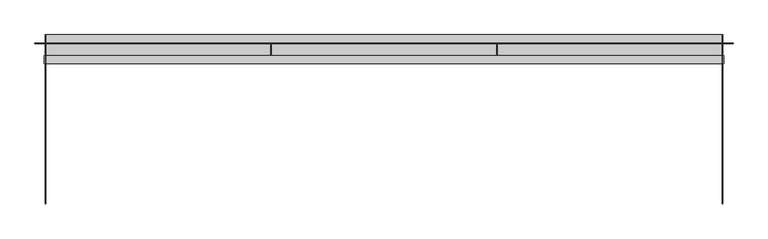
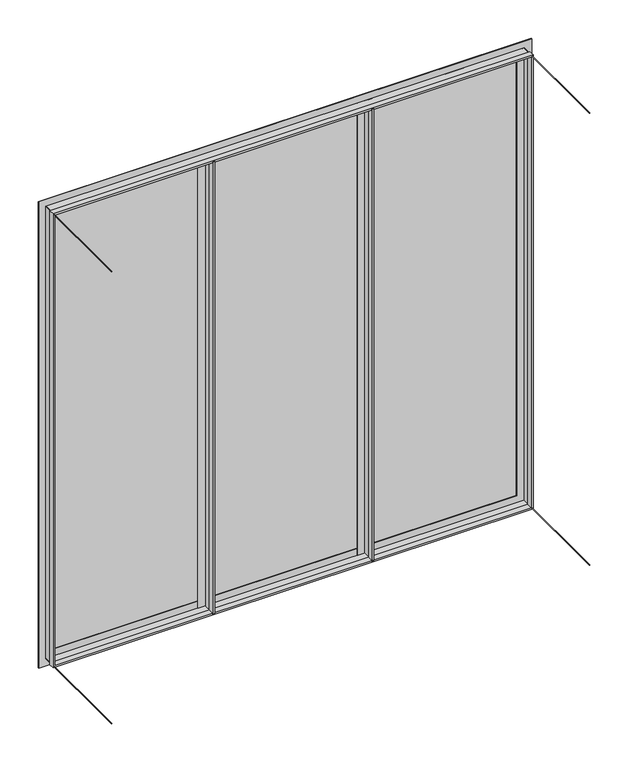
"""IFC4 building model written with IfcOpenShell, lengths in millimetres: plate geometry, Flush Ceiling Panel with Tee and Cable Ties (3 Segments) : Ceiling Panel (Vinyl) with Tee and Cable Ties Edge."""

from ifc_helpers import new_model, si_unit, point, frame, frame_2d, origin, origin_with_axes, place, context, project, spatial, polyline, circle_curve, trimmed, segment, composite_curve, outline, extrude, faceted_brep, source, transform, mapped, element, save


def plate_5478498b(model_context):
    return source(origin(), model_context, "Body", "SolidModel", [
        extrude(outline(composite_curve([segment(trimmed(circle_curve(frame_2d((1200.0, 600.0000002)), 0.5), [point((1200.0, 600.5000002))], [point((1200.0, 599.5000002))], False, "CARTESIAN"), True, "CONTINUOUS"), segment(trimmed(circle_curve(frame_2d((1200.0, 600.0000002)), 0.5), [point((1200.0, 599.5000002))], [point((1200.0, 600.5000002))], False, "CARTESIAN"), True, "CONTINUOUS")], self_intersect=False)), frame((0.0, -300.0, 0.0), z_axis=(0.0, 1.0, 0.0), x_axis=(0.0, 0.0, 1.0)), (0.0, 0.0, 1.0), 300.0),
        extrude(outline(composite_curve([segment(trimmed(circle_curve(frame_2d((1200.0, -600.0000002)), 0.5), [point((1200.0, -599.5000002))], [point((1200.0, -600.5000002))], False, "CARTESIAN"), True, "CONTINUOUS"), segment(trimmed(circle_curve(frame_2d((1200.0, -600.0000002)), 0.5), [point((1200.0, -600.5000002))], [point((1200.0, -599.5000002))], False, "CARTESIAN"), True, "CONTINUOUS")], self_intersect=False)), frame((0.0, -300.0, 0.0), z_axis=(0.0, 1.0, 0.0), x_axis=(0.0, 0.0, 1.0)), (0.0, 0.0, 1.0), 300.0),
        extrude(outline(composite_curve([segment(trimmed(circle_curve(frame_2d((0.0, 600.0000002)), 0.5), [point((0.0, 600.5000002))], [point((0.0, 599.5000002))], False, "CARTESIAN"), True, "CONTINUOUS"), segment(trimmed(circle_curve(frame_2d((0.0, 600.0000002)), 0.5), [point((0.0, 599.5000002))], [point((0.0, 600.5000002))], False, "CARTESIAN"), True, "CONTINUOUS")], self_intersect=False)), frame((0.0, -300.0, 0.0), z_axis=(0.0, 1.0, 0.0), x_axis=(0.0, 0.0, 1.0)), (0.0, 0.0, 1.0), 300.0),
        extrude(outline(composite_curve([segment(trimmed(circle_curve(frame_2d((0.0, -600.0000002)), 0.5), [point((0.0, -599.5000002))], [point((0.0, -600.5000002))], False, "CARTESIAN"), True, "CONTINUOUS"), segment(trimmed(circle_curve(frame_2d((0.0, -600.0000002)), 0.5), [point((0.0, -600.5000002))], [point((0.0, -599.5000002))], False, "CARTESIAN"), True, "CONTINUOUS")], self_intersect=False)), frame((0.0, -300.0, 0.0), z_axis=(0.0, 1.0, 0.0), x_axis=(0.0, 0.0, 1.0)), (0.0, 0.0, 1.0), 300.0),
        extrude(outline(polyline([(219.0000001, -15.0), (219.0000001, -16.0), (200.5000001, -16.0), (200.5000001, -37.0), (202.5000001, -37.0), (202.5000001, -51.0), (197.5000001, -51.0), (197.5000001, -37.0), (199.5000001, -37.0), (199.5000001, -16.0), (181.0000001, -16.0), (181.0000001, -15.0), (219.0000001, -15.0)])), origin_with_axes(), (0.0, 0.0, 1.0), 1200.0),
        extrude(outline(polyline([(-181.0000001, -15.0), (-181.0000001, -16.0), (-199.5000001, -16.0), (-199.5000001, -37.0), (-197.5000001, -37.0), (-197.5000001, -51.0), (-202.5000001, -51.0), (-202.5000001, -37.0), (-200.5000001, -37.0), (-200.5000001, -16.0), (-219.0000001, -16.0), (-219.0000001, -15.0), (-181.0000001, -15.0)])), origin_with_axes(), (0.0, 0.0, 1.0), 1200.0),
        faceted_brep([(581.0000002, -16.0, 1181.0), (581.0000002, -15.0, 1181.0), (581.0000002, -15.0, 19.0), (581.0000002, -16.0, 19.0), (599.5000002, -37.0, 1199.5), (599.5000002, -16.0, 1199.5), (599.5000002, -16.0, 0.5), (599.5000002, -37.0, 0.5), (597.5000002, -51.0, 1197.5), (597.5000002, -37.0, 1197.5), (597.5000002, -37.0, 2.5), (597.5000002, -51.0, 2.5), (602.5000002, -37.0, 1202.5), (602.5000002, -51.0, 1202.5), (602.5000002, -51.0, -2.5), (602.5000002, -37.0, -2.5), (600.5000002, -16.0, 1200.5), (600.5000002, -37.0, 1200.5), (600.5000002, -37.0, -0.5), (600.5000002, -16.0, -0.5), (619.0000002, -15.0, 1219.0), (619.0000002, -16.0, 1219.0), (619.0000002, -16.0, -19.0), (619.0000002, -15.0, -19.0), (-581.0000002, -15.0, 19.0), (-581.0000002, -16.0, 19.0), (-599.5000002, -16.0, 0.5), (-599.5000002, -37.0, 0.5), (-597.5000002, -37.0, 2.5), (-597.5000002, -51.0, 2.5), (-602.5000002, -51.0, -2.5), (-602.5000002, -37.0, -2.5), (-600.5000002, -37.0, -0.5), (-600.5000002, -16.0, -0.5), (-619.0000002, -16.0, -19.0), (-619.0000002, -15.0, -19.0), (-581.0000002, -15.0, 1181.0), (-581.0000002, -16.0, 1181.0), (-599.5000002, -16.0, 1199.5), (-599.5000002, -37.0, 1199.5), (-597.5000002, -37.0, 1197.5), (-597.5000002, -51.0, 1197.5), (-602.5000002, -51.0, 1202.5), (-602.5000002, -37.0, 1202.5), (-600.5000002, -37.0, 1200.5), (-600.5000002, -16.0, 1200.5), (-619.0000002, -16.0, 1219.0), (-619.0000002, -15.0, 1219.0)], [[[0, 1, 2, 3]], [[4, 5, 6, 7]], [[8, 9, 10, 11]], [[12, 13, 14, 15]], [[16, 17, 18, 19]], [[20, 21, 22, 23]], [[3, 2, 24, 25]], [[7, 6, 26, 27]], [[11, 10, 28, 29]], [[15, 14, 30, 31]], [[19, 18, 32, 33]], [[23, 22, 34, 35]], [[25, 24, 36, 37]], [[27, 26, 38, 39]], [[29, 28, 40, 41]], [[31, 30, 42, 43]], [[33, 32, 44, 45]], [[35, 34, 46, 47]], [[23, 35, 47, 20], [1, 36, 24, 2]], [[37, 36, 1, 0]], [[5, 38, 26, 6], [3, 25, 37, 0]], [[39, 38, 5, 4]], [[7, 27, 39, 4], [9, 40, 28, 10]], [[41, 40, 9, 8]], [[13, 42, 30, 14], [11, 29, 41, 8]], [[43, 42, 13, 12]], [[15, 31, 43, 12], [17, 44, 32, 18]], [[45, 44, 17, 16]], [[21, 46, 34, 22], [19, 33, 45, 16]], [[47, 46, 21, 20]]]),
        extrude(outline(polyline([(600.0000002, -15.0), (-600.0000002, -15.0), (-600.0000002, 0.0), (600.0000002, 0.0), (600.0000002, -15.0)])), origin_with_axes(), (0.0, 0.0, 1.0), 1200.0),
    ])


if __name__ == "__main__":
    model = new_model("IFC4")
    model_context = context("Model", 3, world=origin())
    ifc_project = project(units=[si_unit("LENGTHUNIT", "METRE", prefix="MILLI")], contexts=[model_context])
    site = spatial("IfcSite", under=ifc_project)
    building = spatial("IfcBuilding", under=site)
    placement = place(None, origin())
    plate_shape = plate_5478498b(model_context)
    element("IfcPlate", 1, ObjectType="Flush Ceiling Panel with Tee and Cable Ties (3 Segments) : Ceiling Panel (Vinyl) with Tee and Cable Ties Edge", at=placement, inside=building, context=model_context, shape_type="MappedRepresentation", body=[
        mapped(plate_shape, transform((0.0, 0.0, 0.0), x_axis=(1.0, 0.0, 0.0), y_axis=(0.0, 1.0, 0.0), z_axis=(0.0, 0.0, 1.0))),
    ])
    save(model, "model.ifc")
